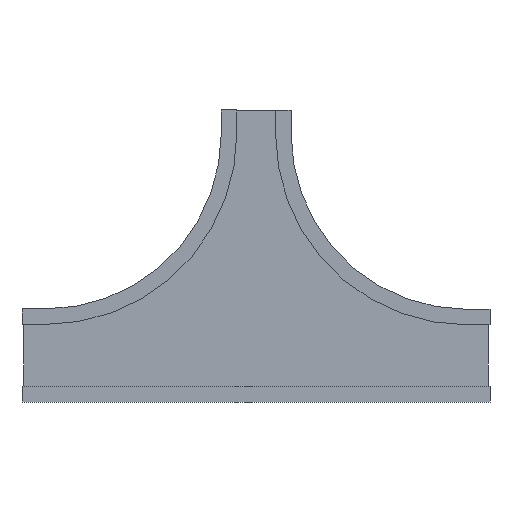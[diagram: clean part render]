
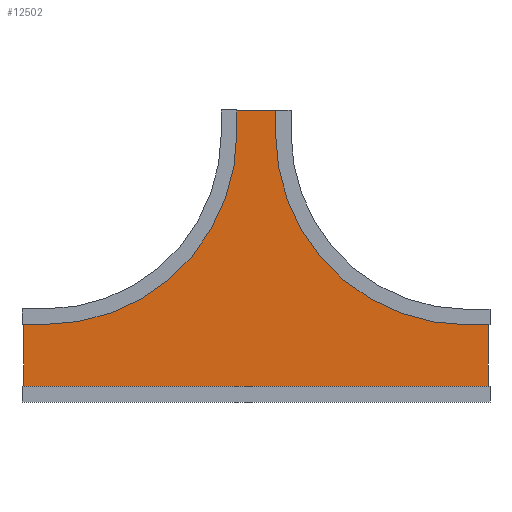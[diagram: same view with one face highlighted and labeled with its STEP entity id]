
A CAD part, front view. The second image highlights one B-rep face of the part: STEP entity #12502.
In plain terms, the highlighted planar face has unit normal (0, -1, 0).
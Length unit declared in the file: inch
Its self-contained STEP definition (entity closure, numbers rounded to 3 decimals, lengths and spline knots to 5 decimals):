
#12311=DIRECTION('',(1.,0.,0.));
#12312=VECTOR('',#12311,5.875);
#12313=CARTESIAN_POINT('',(-2.9375,0.,0.));
#12314=LINE('',#12313,#12312);
#12315=DIRECTION('',(0.,0.,-1.));
#12316=VECTOR('',#12315,2.875);
#12317=CARTESIAN_POINT('',(2.9375,0.,0.));
#12318=LINE('',#12317,#12316);
#12319=CARTESIAN_POINT('',(27.,0.,-2.875));
#12320=DIRECTION('',(0.,-1.,0.));
#12321=DIRECTION('',(-1.,0.,0.));
#12322=AXIS2_PLACEMENT_3D('',#12319,#12320,#12321);
#12324=DIRECTION('',(1.,0.,0.));
#12325=VECTOR('',#12324,2.875);
#12326=CARTESIAN_POINT('',(27.,0.,-26.9375));
#12327=LINE('',#12326,#12325);
#12328=DIRECTION('',(0.,0.,-1.));
#12329=VECTOR('',#12328,8.875);
#12330=CARTESIAN_POINT('',(29.875,0.,-26.9375));
#12331=LINE('',#12330,#12329);
#12332=DIRECTION('',(-1.,0.,0.));
#12333=VECTOR('',#12332,59.75);
#12334=CARTESIAN_POINT('',(29.875,0.,-35.8125));
#12335=LINE('',#12334,#12333);
#12336=DIRECTION('',(0.,0.,1.));
#12337=VECTOR('',#12336,8.875);
#12338=CARTESIAN_POINT('',(-29.875,0.,-35.8125));
#12339=LINE('',#12338,#12337);
#12340=DIRECTION('',(1.,0.,0.));
#12341=VECTOR('',#12340,2.875);
#12342=CARTESIAN_POINT('',(-29.875,0.,-26.9375));
#12343=LINE('',#12342,#12341);
#12344=CARTESIAN_POINT('',(-27.,0.,-2.875));
#12345=DIRECTION('',(0.,-1.,0.));
#12346=DIRECTION('',(0.,0.,-1.));
#12347=AXIS2_PLACEMENT_3D('',#12344,#12345,#12346);
#12349=DIRECTION('',(0.,0.,1.));
#12350=VECTOR('',#12349,2.875);
#12351=CARTESIAN_POINT('',(-2.9375,0.,-2.875));
#12352=LINE('',#12351,#12350);
#12435=CARTESIAN_POINT('',(-2.9375,0.,0.));
#12436=CARTESIAN_POINT('',(2.9375,0.,0.));
#12437=VERTEX_POINT('',#12435);
#12438=VERTEX_POINT('',#12436);
#12439=CARTESIAN_POINT('',(2.9375,0.,-2.875));
#12440=VERTEX_POINT('',#12439);
#12441=CARTESIAN_POINT('',(27.,0.,-26.9375));
#12442=VERTEX_POINT('',#12441);
#12443=CARTESIAN_POINT('',(29.875,0.,-26.9375));
#12444=VERTEX_POINT('',#12443);
#12445=CARTESIAN_POINT('',(29.875,0.,-35.8125));
#12446=VERTEX_POINT('',#12445);
#12447=CARTESIAN_POINT('',(-29.875,0.,-35.8125));
#12448=VERTEX_POINT('',#12447);
#12449=CARTESIAN_POINT('',(-29.875,0.,-26.9375));
#12450=VERTEX_POINT('',#12449);
#12451=CARTESIAN_POINT('',(-27.,0.,-26.9375));
#12452=VERTEX_POINT('',#12451);
#12453=CARTESIAN_POINT('',(-2.9375,0.,-2.875));
#12454=VERTEX_POINT('',#12453);
#12475=CARTESIAN_POINT('',(0.,0.,0.));
#12476=DIRECTION('',(0.,1.,0.));
#12477=DIRECTION('',(1.,0.,0.));
#12478=AXIS2_PLACEMENT_3D('',#12475,#12476,#12477);
#12479=PLANE('',#12478);
#12481=ORIENTED_EDGE('',*,*,#12480,.T.);
#12483=ORIENTED_EDGE('',*,*,#12482,.T.);
#12485=ORIENTED_EDGE('',*,*,#12484,.T.);
#12487=ORIENTED_EDGE('',*,*,#12486,.T.);
#12489=ORIENTED_EDGE('',*,*,#12488,.T.);
#12491=ORIENTED_EDGE('',*,*,#12490,.T.);
#12493=ORIENTED_EDGE('',*,*,#12492,.T.);
#12495=ORIENTED_EDGE('',*,*,#12494,.T.);
#12497=ORIENTED_EDGE('',*,*,#12496,.T.);
#12499=ORIENTED_EDGE('',*,*,#12498,.T.);
#12500=EDGE_LOOP('',(#12481,#12483,#12485,#12487,#12489,#12491,#12493,#12495,
#12497,#12499));
#12501=FACE_OUTER_BOUND('',#12500,.F.);
#12502=ADVANCED_FACE('',(#12501),#12479,.F.);
#12323=CIRCLE('',#12322,24.0625);
#12348=CIRCLE('',#12347,24.0625);
#12480=EDGE_CURVE('',#12437,#12438,#12314,.T.);
#12482=EDGE_CURVE('',#12438,#12440,#12318,.T.);
#12484=EDGE_CURVE('',#12440,#12442,#12323,.T.);
#12486=EDGE_CURVE('',#12442,#12444,#12327,.T.);
#12488=EDGE_CURVE('',#12444,#12446,#12331,.T.);
#12490=EDGE_CURVE('',#12446,#12448,#12335,.T.);
#12492=EDGE_CURVE('',#12448,#12450,#12339,.T.);
#12494=EDGE_CURVE('',#12450,#12452,#12343,.T.);
#12496=EDGE_CURVE('',#12452,#12454,#12348,.T.);
#12498=EDGE_CURVE('',#12454,#12437,#12352,.T.);
